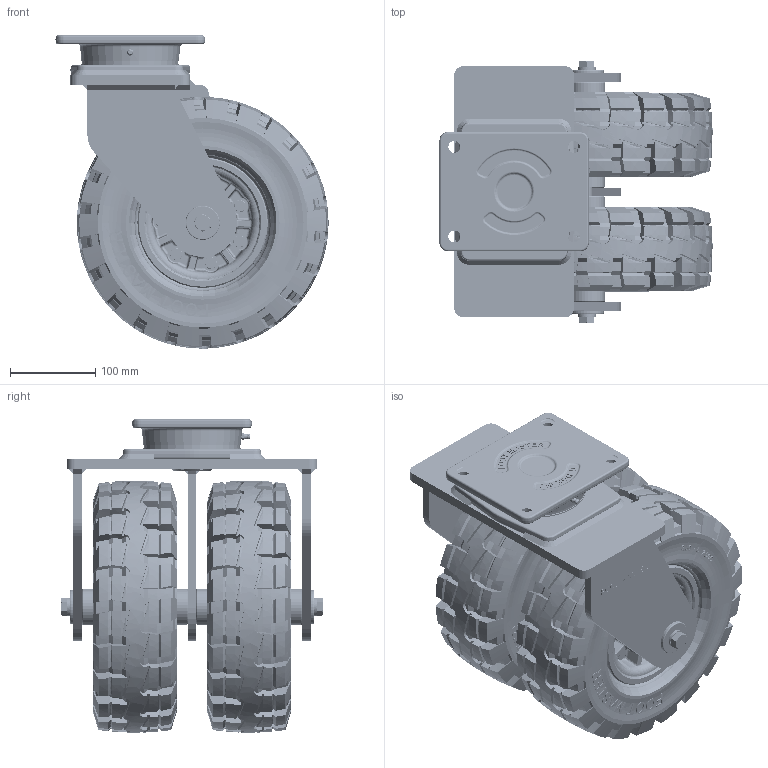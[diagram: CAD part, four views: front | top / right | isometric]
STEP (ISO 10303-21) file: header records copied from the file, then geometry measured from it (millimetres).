
FILE_DESCRIPTION(/* description */ (''),/* implementation_level */ '2;1');
FILE_NAME(/* name */ '\\192.168.10.38\지덕공유\1.기술연구소\2.연구개발 진행중\121.Solidtire caster_2024.11.22\제품설계\홈페이지용 도면\3D\GT-300\5.GTD-300-ASF-TRD.stp',/* time_stamp */ '2025-09-19T09:33:28+09:00',/* author */ ('admin'),/* organization */ (''),/* preprocessor_version */ 'ST-DEVELOPER v18.1',/* originating_system */ 'Autodesk Inventor 2021',/* authorisation */ '');
FILE_SCHEMA (('AUTOMOTIVE_DESIGN { 1 0 10303 214 3 1 1 }'));
Products named in the file (1): 5.GTD-300-ASF-TIRE-Rev01_2025.09.18_Shrinkwrap_1
Bounding box: 319.97 x 307 x 366.96 mm (x, y, z)
Volume: 12978041.3 mm3; surface area: 897168.5 mm2
Topology: 1 solids, 1 shells, 7002 faces, 18859 edges, 12032 vertices
Faces by surface type: bspline 3270, plane 2004, cone 1059, torus 440, cylinder 228, sphere 1
Full cylindrical faces by diameter (mm): 6 x1, 8 x14, 12.5 x14, 14 x4, 17 x14, 40 x2, 42.7 x4, 113 x1, 114 x1, 160 x4
Entity records: 284970 total; most frequent: CARTESIAN_POINT 130399, ORIENTED_EDGE 37490, DIRECTION 20171, EDGE_CURVE 18745, VERTEX_POINT 12032, B_SPLINE_CURVE_WITH_KNOTS 9182, AXIS2_PLACEMENT_3D 7435, EDGE_LOOP 7311
